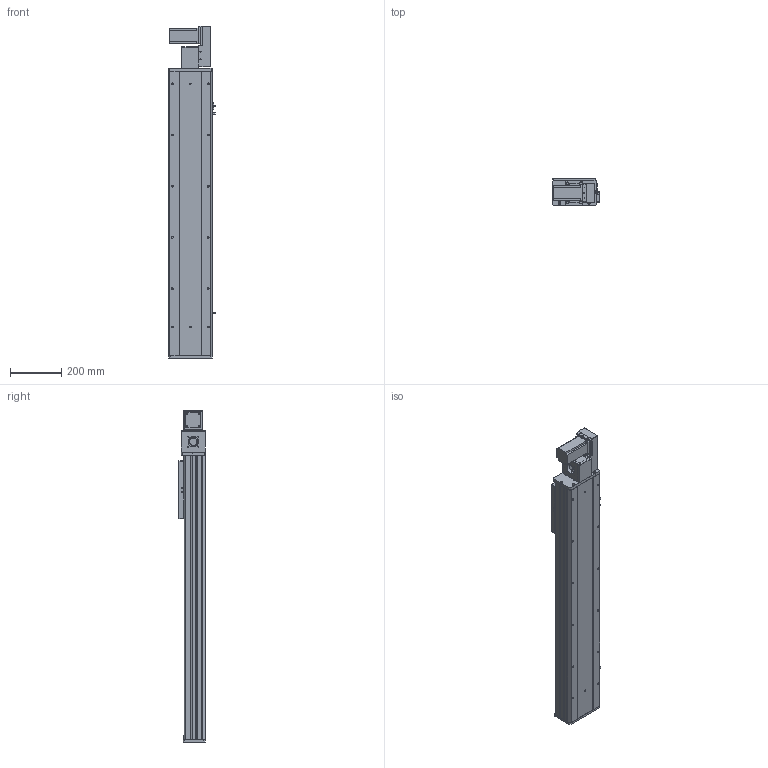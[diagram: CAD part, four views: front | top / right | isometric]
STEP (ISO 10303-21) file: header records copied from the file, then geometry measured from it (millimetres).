
FILE_DESCRIPTION (( 'STEP AP203' ), '1' );
FILE_NAME ('Y170CB-D105-S800-BR-P400W.STEP', '2020-02-19T09:03:23', ( '微软用户' ), ( '微软中国' ), 'SwSTEP 2.0', 'SolidWorks 2017', '' );
FILE_SCHEMA (( 'CONFIG_CONTROL_DESIGN' ));
Length unit declared in the file: millimetre
Products named in the file (17): Y100-135俋离換覜ん--; 70B喘謫眊----; B-源倛裔啣; 17B-耜蚾蟀諉啣----; 0B-萇儂楊擘啣; san松下电机400不带刹车----; Y70俋欶BR----; 70CB-掛极-; --70CB --喘謫眊楊擘啣-; 70CB-耜裔啣-; 70C--詩湍揤踡え-; 70CB--耜裔; 70C-雄赽釱-奻-; 0C--雄赽釱俋欶-170; 70CB-詩湍--; Y170CB-陔俋离換覜結え---; Y170CB-D105-S800-BR-P400W
Assembly tree (20 placements, depth 2):
  Y170CB-D105-S800-BR-P400W
    70B喘謫眊----
    B-源倛裔啣
    17B-耜蚾蟀諉啣----
    0B-萇儂楊擘啣
    san松下电机400不带刹车----
    Y70俋欶BR----
    70CB-掛极-
    --70CB --喘謫眊楊擘啣-
    70CB-耜裔啣-  x2
    70C--詩湍揤踡え-  x2
    70CB--耜裔
    70C-雄赽釱-奻-
    0C--雄赽釱俋欶-170
    70CB-詩湍--
    Y100-135俋离換覜ん--  x3
    Y170CB-陔俋离換覜結え---
Bounding box: 183.5 x 107 x 1297 mm (x, y, z)
Volume: 5744927.9 mm3; surface area: 2046966.7 mm2
Topology: 20 solids, 20 shells, 985 faces, 2633 edges, 1746 vertices
Faces by surface type: cylinder 499, plane 462, cone 24
Entity records: 31167 total; most frequent: CARTESIAN_POINT 5721, DIRECTION 5068, ORIENTED_EDGE 4748, EDGE_CURVE 2374, AXIS2_PLACEMENT_3D 1845, VERTEX_POINT 1576, VECTOR 1378, LINE 1378
